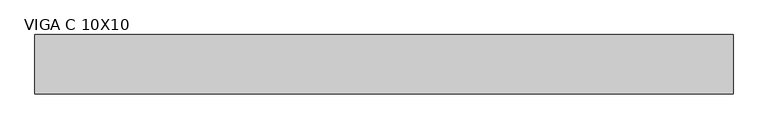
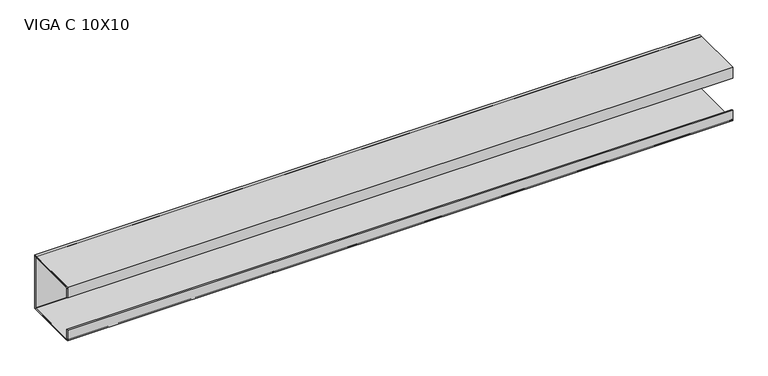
"""IFC4 building model written with IfcOpenShell, lengths in millimetres: beam geometry, VIGA PERFIL C AÇO : VIGA C 10X10."""

from ifc_helpers import new_model, si_unit, point, frame, frame_2d, origin, place, context, project, spatial, polyline, circle_curve, trimmed, segment, composite_curve, outline, extrude, source, transform, mapped, element, save


def viga_c_10x10_c337a21a(model_context):
    return source(origin(), model_context, "Body", "SweptSolid", [
        extrude(outline(polyline([(9.2, -50.0), (-90.8, -50.0), (-90.8, -30.0), (-88.9, -30.0), (-88.9, -48.1), (7.3, -48.1), (7.3, 48.1), (-88.9, 48.1), (-88.9, 30.0), (-90.8, 30.0), (-90.8, 50.0), (9.2, 50.0), (9.2, -50.0)])), frame((-557.0, 0.0, 0.0), z_axis=(1.0, 0.0, 0.0), x_axis=(0.0, 1.0, 0.0)), (0.0, 0.0, 1.0), 1176.0),
        extrude(outline(composite_curve([segment(trimmed(circle_curve(frame_2d((5.4, -46.2)), 3.8), [point((9.2, -46.2))], [point((5.4, -50.0))], False, "CARTESIAN"), True, "CONTINUOUS"), segment(polyline([(5.4, -50.0), (-87.0, -50.0)]), True, "CONTINUOUS"), segment(trimmed(circle_curve(frame_2d((-87.0, -46.2)), 3.8), [point((-87.0, -50.0))], [point((-90.8, -46.2))], False, "CARTESIAN"), True, "CONTINUOUS"), segment(polyline([(-90.8, -46.2), (-90.8, -30.0), (-88.9, -30.0), (-88.9, -46.2)]), True, "CONTINUOUS"), segment(trimmed(circle_curve(frame_2d((-87.0, -46.2)), 1.9), [point((-88.9, -46.2))], [point((-87.0, -48.1))], True, "CARTESIAN"), True, "CONTINUOUS"), segment(polyline([(-87.0, -48.1), (5.4, -48.1)]), True, "CONTINUOUS"), segment(trimmed(circle_curve(frame_2d((5.4, -46.2)), 1.9), [point((5.4, -48.1))], [point((7.3, -46.2))], True, "CARTESIAN"), True, "CONTINUOUS"), segment(polyline([(7.3, -46.2), (7.3, 46.2)]), True, "CONTINUOUS"), segment(trimmed(circle_curve(frame_2d((5.4, 46.2)), 1.9), [point((7.3, 46.2))], [point((5.4, 48.1))], True, "CARTESIAN"), True, "CONTINUOUS"), segment(polyline([(5.4, 48.1), (-87.0, 48.1)]), True, "CONTINUOUS"), segment(trimmed(circle_curve(frame_2d((-87.0, 46.2)), 1.9), [point((-87.0, 48.1))], [point((-88.9, 46.2))], True, "CARTESIAN"), True, "CONTINUOUS"), segment(polyline([(-88.9, 46.2), (-88.9, 30.0), (-90.8, 30.0), (-90.8, 46.2)]), True, "CONTINUOUS"), segment(trimmed(circle_curve(frame_2d((-87.0, 46.2)), 3.8), [point((-90.8, 46.2))], [point((-87.0, 50.0))], False, "CARTESIAN"), True, "CONTINUOUS"), segment(polyline([(-87.0, 50.0), (5.4, 50.0)]), True, "CONTINUOUS"), segment(trimmed(circle_curve(frame_2d((5.4, 46.2)), 3.8), [point((5.4, 50.0))], [point((9.2, 46.2))], False, "CARTESIAN"), True, "CONTINUOUS"), segment(polyline([(9.2, 46.2), (9.2, -46.2)]), True, "CONTINUOUS")], self_intersect=False)), frame((-557.0, 0.0, 0.0), z_axis=(1.0, 0.0, 0.0), x_axis=(0.0, 1.0, 0.0)), (0.0, 0.0, 1.0), 1176.0),
    ])


if __name__ == "__main__":
    model = new_model("IFC4")
    model_context = context("Model", 3, world=origin())
    ifc_project = project(units=[si_unit("LENGTHUNIT", "METRE", prefix="MILLI")], contexts=[model_context])
    site = spatial("IfcSite", under=ifc_project)
    building = spatial("IfcBuilding", under=site)
    placement = place(None, origin())
    viga_c_10x10_shape = viga_c_10x10_c337a21a(model_context)
    element("IfcBeam", 1, ObjectType="VIGA PERFIL C AÇO : VIGA C 10X10", at=placement, inside=building, context=model_context, shape_type="MappedRepresentation", body=[
        mapped(viga_c_10x10_shape, transform((0.0, 0.0, 0.0), x_axis=(1.0, 0.0, 0.0), y_axis=(0.0, 1.0, 0.0), z_axis=(0.0, 0.0, 1.0))),
    ])
    save(model, "model.ifc")
